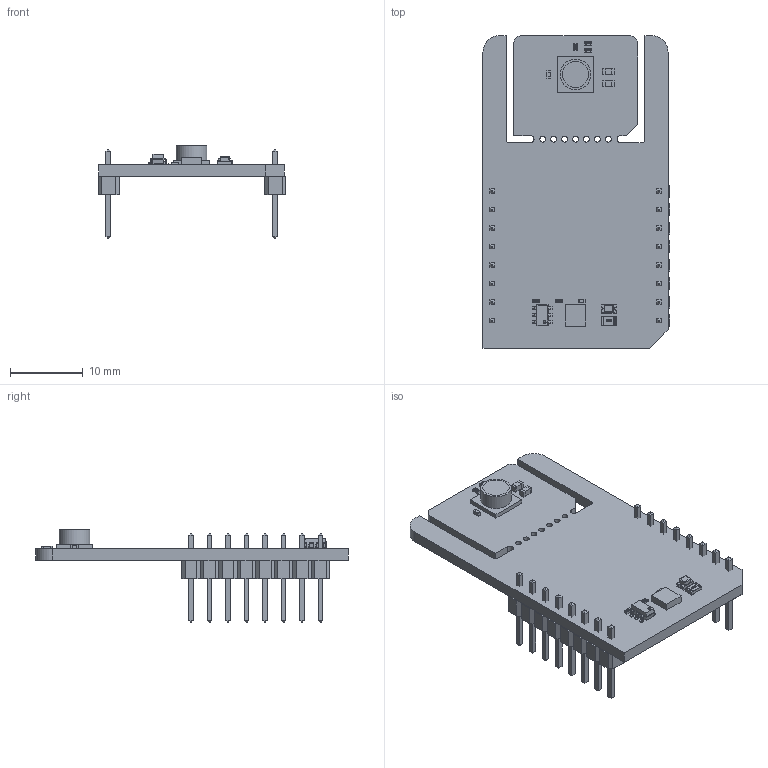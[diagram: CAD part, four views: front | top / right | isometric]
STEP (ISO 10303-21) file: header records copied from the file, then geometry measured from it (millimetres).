
FILE_DESCRIPTION(('Open CASCADE Model'),'2;1');
FILE_NAME('Open CASCADE Shape Model','2026-01-28T10:51:10',('Author'),( 'Open CASCADE'),'Open CASCADE STEP processor 7.5','Open CASCADE 7.5' ,'Unknown');
FILE_SCHEMA(('AUTOMOTIVE_DESIGN { 1 0 10303 214 1 1 1 1 }'));
Length unit declared in the file: millimetre
Products named in the file (38): PCB; Board; Open CASCADE STEP translator 7.5 1.1.1; C2; User Library-SMD CAPACITOR0402; U3; 7473093104; Extruded; 7473091744; Cylinder; 7473091504; R6; User Library-R_0402; R5; R4; C4; User Library-SMD CAPACITOR0603; C3; R3; R1; User Library-R_0805; LD1; led_0805_green; C1; R2; U1; 7473092304; U2; User Library-SOT23-6-2; MBD1; Header 1x8; Free-Models; 1240637040; User_Library-PinHeaderX5-1_PinHeaderX5_Body_1; User_Library-PinHeaderX5-1_PinHeaderX5_Pins_1
Assembly tree (45 placements, depth 7):
  PCB
    Board
      Open CASCADE STEP translator 7.5 1.1.1
    C2
      User Library-SMD CAPACITOR0402
    U3
      7473093104
        Extruded
      7473091744
        Cylinder
      7473091504
        Cylinder
    R6
      User Library-R_0402
    R5
      User Library-R_0402
    R4
      User Library-R_0402
    C4
      User Library-SMD CAPACITOR0603
    C3
      User Library-SMD CAPACITOR0603
    R3
      User Library-R_0402
    R1
      User Library-R_0805
    LD1
      led_0805_green
    C1
      User Library-SMD CAPACITOR0402
    R2
      User Library-R_0402
    U1
      7473092304
        Extruded
    U2
      User Library-SOT23-6-2
    MBD1
      Header 1x8  x2
        PCB
          Free-Models
            1240637040  x2
              User_Library-PinHeaderX5-1_PinHeaderX5_Body_1
              User_Library-PinHeaderX5-1_PinHeaderX5_Pins_1
Bounding box: 25.78 x 42.93 x 12.72 mm (x, y, z)
Volume: 2209.8 mm3; surface area: 4018.6 mm2
Topology: 43 solids, 43 shells, 1364 faces, 3408 edges, 2148 vertices
Faces by surface type: plane 1038, bspline 172, cylinder 116, sphere 38
Full cylindrical faces by diameter (mm): 0.8 x7, 3.6 x1, 4.2 x1
Entity records: 24768 total; most frequent: CARTESIAN_POINT 7382, ORIENTED_EDGE 2880, DIRECTION 2603, EDGE_CURVE 1440, LINE 1129, VECTOR 1129, VERTEX_POINT 916, AXIS2_PLACEMENT_3D 737
